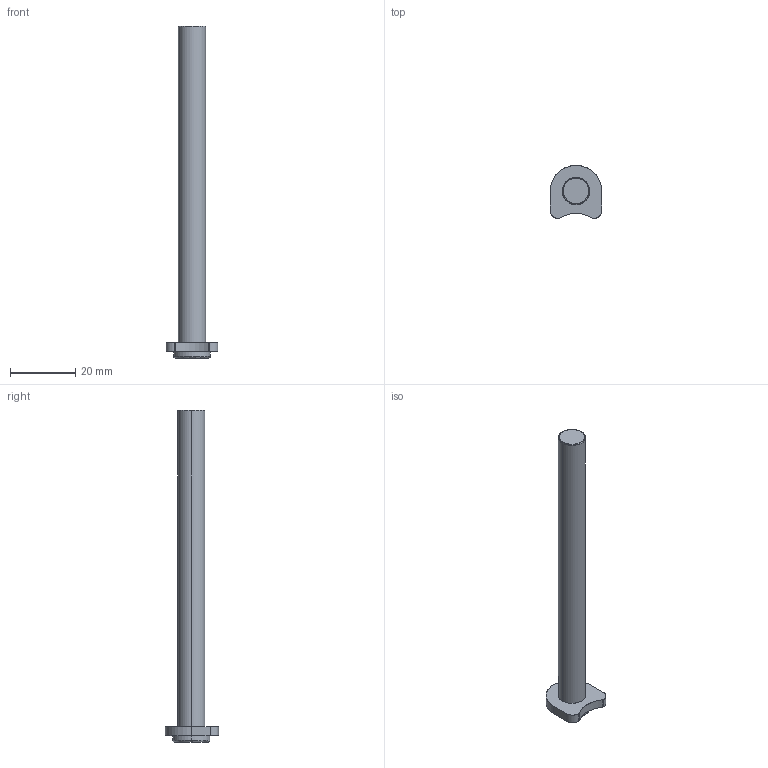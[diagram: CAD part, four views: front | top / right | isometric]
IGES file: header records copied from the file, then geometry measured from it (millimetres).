
Start section: SolidWorks IGES file using analytic representation for surfaces
Global section: file name: \\PSSILO\catalogs\CONTENTCENTRAL\GUIDE ROD\Cache\8D153752-A258-4596-A6F4-70EAEAA422DD.IGS; native system: SolidWorks 2009; preprocessor: SolidWorks 2009; author: partstream; date: 090716.113350; units: inch
Bounding box: 15.88 x 16.26 x 101.73 mm (x, y, z)
Surface area: 3187.4 mm2 (no closed solid volume)
Topology: 0 solids, 0 shells, 20 faces, 280 edges, 280 vertices
Faces by surface type: bspline 12, revolution 8
